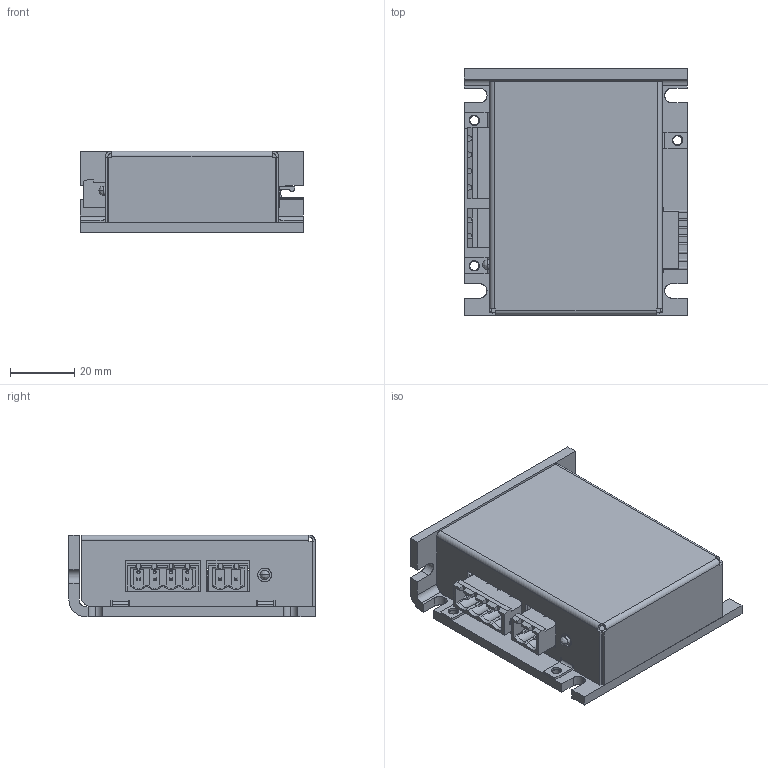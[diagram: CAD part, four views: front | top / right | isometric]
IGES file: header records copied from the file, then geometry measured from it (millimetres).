
Start section: SolidWorks IGES file using analytic representation for surfaces
Global section: file name: C:\Users\Engineering\Documents\Drawing\CAD\Arcus Enclosure\ACE-Assembly\ACE-SDX\ACE-SDX-external.IGS; native system: SolidWorks 2011; preprocessor: SolidWorks 2011; author: Engineering; date: 110801.095758; units: inch
Bounding box: 69.85 x 76.83 x 25.4 mm (x, y, z)
Surface area: 33893.7 mm2 (no closed solid volume)
Topology: 0 solids, 0 shells, 675 faces, 5692 edges, 5682 vertices
Faces by surface type: bspline 514, revolution 161
